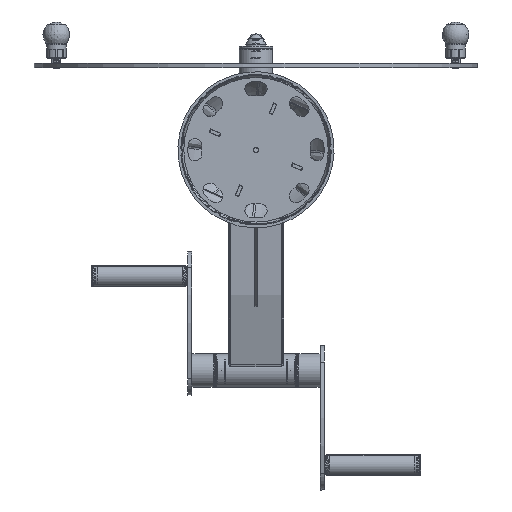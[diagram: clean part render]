
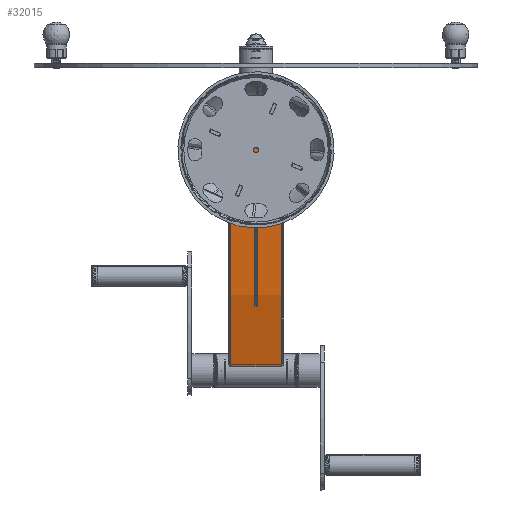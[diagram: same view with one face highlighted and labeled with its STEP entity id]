
A CAD part, front view. The second image highlights one B-rep face of the part: STEP entity #32015.
In plain terms, the highlighted cylindrical face has radius 775 mm (diameter 1550 mm), a partial arc.
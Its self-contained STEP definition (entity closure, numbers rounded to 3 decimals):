
#787 = DIRECTION ( 'NONE',  ( 0., 0., -1. ) ) ;
#1870 = DIRECTION ( 'NONE',  ( -1., 0., 0. ) ) ;
#3735 = DIRECTION ( 'NONE',  ( -1., 0., 0. ) ) ;
#8816 = EDGE_CURVE ( 'NONE', #97200, #38236, #93180, .T. ) ;
#8892 = DIRECTION ( 'NONE',  ( -1., 0., 0. ) ) ;
#9197 = CARTESIAN_POINT ( 'NONE',  ( 53.281, 773.166, -50. ) ) ;
#13052 = CIRCLE ( 'NONE', #43818, 775. ) ;
#16658 = EDGE_CURVE ( 'NONE', #97200, #74073, #89548, .T. ) ;
#19099 = CARTESIAN_POINT ( 'NONE',  ( 0., 0., 45. ) ) ;
#19277 = CARTESIAN_POINT ( 'NONE',  ( 53.281, 773.166, 45. ) ) ;
#19461 = VERTEX_POINT ( 'NONE', #47800 ) ;
#22149 = AXIS2_PLACEMENT_3D ( 'NONE', #75387, #50500, #8892 ) ;
#22345 = EDGE_LOOP ( 'NONE', ( #38544, #22616, #86863, #101501 ) ) ;
#22616 = ORIENTED_EDGE ( 'NONE', *, *, #92478, .T. ) ;
#24979 = FACE_OUTER_BOUND ( 'NONE', #22345, .T. ) ;
#32015 = ADVANCED_FACE ( 'NONE', ( #24979 ), #81560, .T. ) ;
#33333 = CARTESIAN_POINT ( 'NONE',  ( 427.911, 646.155, -45. ) ) ;
#38236 = VERTEX_POINT ( 'NONE', #19277 ) ;
#38544 = ORIENTED_EDGE ( 'NONE', *, *, #8816, .T. ) ;
#43818 = AXIS2_PLACEMENT_3D ( 'NONE', #19099, #95069, #3735 ) ;
#45378 = LINE ( 'NONE', #100308, #67635 ) ;
#47800 = CARTESIAN_POINT ( 'NONE',  ( 427.911, 646.155, 45. ) ) ;
#50500 = DIRECTION ( 'NONE',  ( 0., 0., -1. ) ) ;
#67635 = VECTOR ( 'NONE', #74074, 1000. ) ;
#67653 = DIRECTION ( 'NONE',  ( 0., 0., 1. ) ) ;
#71019 = VECTOR ( 'NONE', #67653, 1000. ) ;
#73316 = EDGE_CURVE ( 'NONE', #74073, #19461, #45378, .T. ) ;
#74073 = VERTEX_POINT ( 'NONE', #33333 ) ;
#74074 = DIRECTION ( 'NONE',  ( 0., 0., 1. ) ) ;
#75387 = CARTESIAN_POINT ( 'NONE',  ( 0., 0., -45. ) ) ;
#81560 = CYLINDRICAL_SURFACE ( 'NONE', #92700, 775. ) ;
#84777 = CARTESIAN_POINT ( 'NONE',  ( 0., 0., -216.752 ) ) ;
#86863 = ORIENTED_EDGE ( 'NONE', *, *, #73316, .F. ) ;
#89548 = CIRCLE ( 'NONE', #22149, 775. ) ;
#92478 = EDGE_CURVE ( 'NONE', #38236, #19461, #13052, .T. ) ;
#92700 = AXIS2_PLACEMENT_3D ( 'NONE', #84777, #787, #1870 ) ;
#93180 = LINE ( 'NONE', #9197, #71019 ) ;
#95069 = DIRECTION ( 'NONE',  ( 0., 0., -1. ) ) ;
#97200 = VERTEX_POINT ( 'NONE', #104862 ) ;
#100308 = CARTESIAN_POINT ( 'NONE',  ( 427.911, 646.155, 0. ) ) ;
#101501 = ORIENTED_EDGE ( 'NONE', *, *, #16658, .F. ) ;
#104862 = CARTESIAN_POINT ( 'NONE',  ( 53.281, 773.166, -45. ) ) ;
